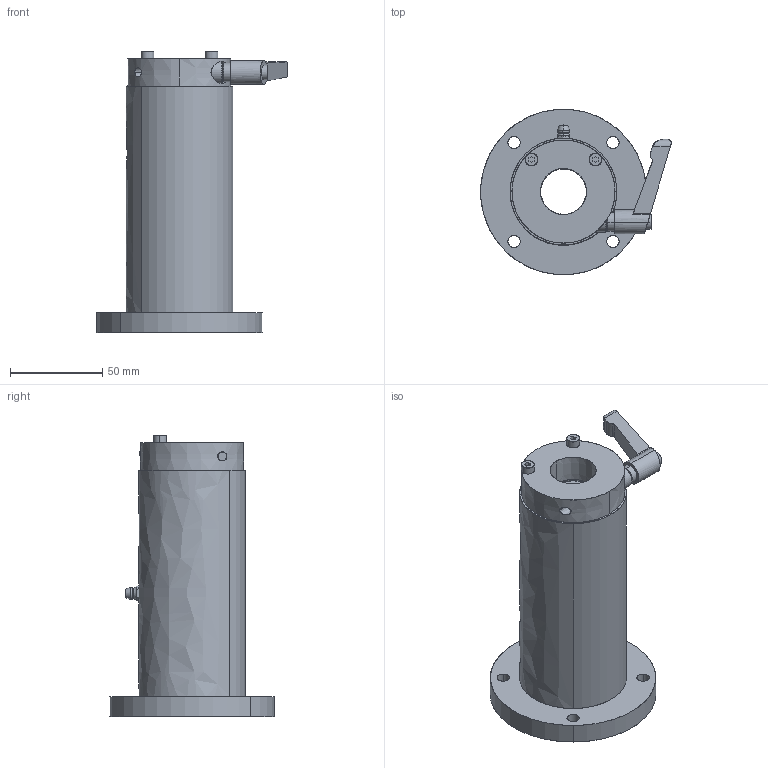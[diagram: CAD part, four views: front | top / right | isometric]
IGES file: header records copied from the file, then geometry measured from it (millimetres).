
Start section: SolidWorks IGES file using analytic representation for surfaces
Global section: file name: C:\Users\yamad\Desktop\IGES\LFW25-OH-CS.IGS; native system: SolidWorks 2019; preprocessor: SolidWorks 2019; author: yamad; date: 230626.165953; units: millimetre
Bounding box: 103.6 x 90 x 153 mm (x, y, z)
Surface area: 68735.1 mm2 (no closed solid volume)
Topology: 0 solids, 0 shells, 226 faces, 5535 edges, 5533 vertices
Faces by surface type: bspline 122, revolution 104
